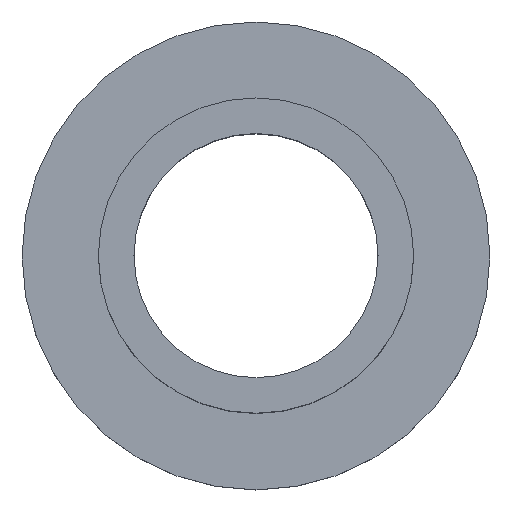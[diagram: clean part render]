
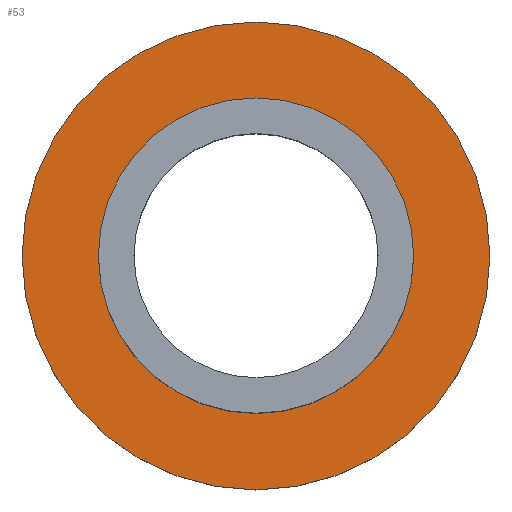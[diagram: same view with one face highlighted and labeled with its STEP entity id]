
A CAD part, top view. The second image highlights one B-rep face of the part: STEP entity #53.
In plain terms, the highlighted planar face has unit normal (0, 0, 1).
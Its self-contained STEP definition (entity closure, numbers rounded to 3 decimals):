
#53=ADVANCED_FACE('',(#107,#109),#111,.T.);
#107=FACE_BOUND('',#108,.T.);
#108=EDGE_LOOP('',(#161));
#109=FACE_BOUND('',#110,.T.);
#110=EDGE_LOOP('',(#162));
#111=PLANE('',#112);
#112=AXIS2_PLACEMENT_3D('',#113,#114,#115);
#113=CARTESIAN_POINT('',(0.,0.,0.6));
#114=DIRECTION('',(0.,0.,1.));
#115=DIRECTION('',(1.,0.,0.));
#161=ORIENTED_EDGE('',*,*,#173,.T.);
#162=ORIENTED_EDGE('',*,*,#174,.F.);
#173=EDGE_CURVE('',#179,#179,#180,.T.);
#174=EDGE_CURVE('',#181,#181,#182,.T.);
#179=VERTEX_POINT('',#191);
#180=CIRCLE('',#192,2.3);
#181=VERTEX_POINT('',#196);
#182=CIRCLE('',#197,1.55);
#191=CARTESIAN_POINT('',(2.3,0.,0.6));
#192=AXIS2_PLACEMENT_3D('',#193,#194,#195);
#193=CARTESIAN_POINT('',(0.,0.,0.6));
#194=DIRECTION('',(0.,0.,1.));
#195=DIRECTION('',(1.,0.,0.));
#196=CARTESIAN_POINT('',(1.55,0.,0.6));
#197=AXIS2_PLACEMENT_3D('',#198,#199,#200);
#198=CARTESIAN_POINT('',(0.,0.,0.6));
#199=DIRECTION('',(0.,0.,1.));
#200=DIRECTION('',(1.,0.,0.));
